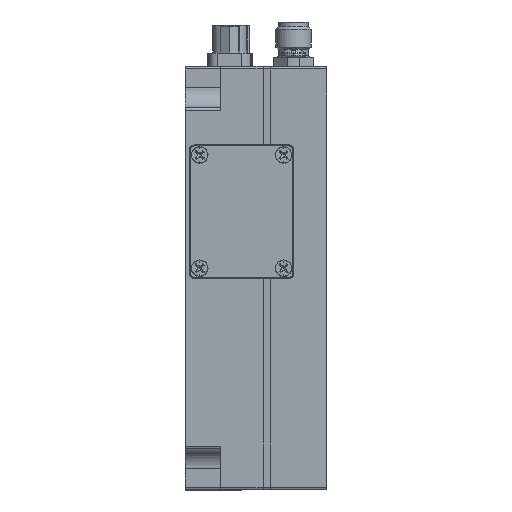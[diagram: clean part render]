
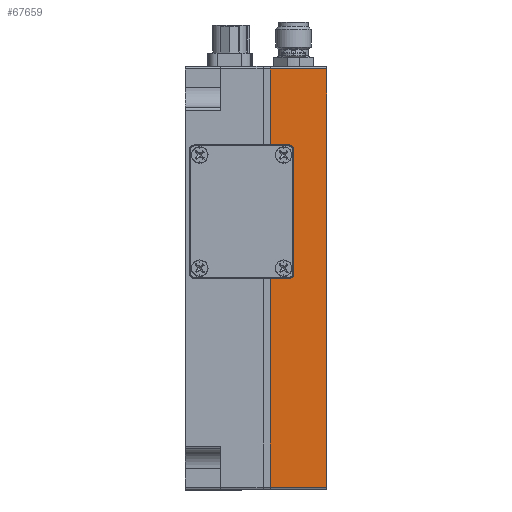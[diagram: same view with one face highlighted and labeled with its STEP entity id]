
A CAD part, left-side view. The second image highlights one B-rep face of the part: STEP entity #67659.
In plain terms, the highlighted planar face has unit normal (-1, 0, 0).
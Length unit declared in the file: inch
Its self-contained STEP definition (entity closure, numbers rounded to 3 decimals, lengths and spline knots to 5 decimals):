
#2495 = DIRECTION ( 'NONE',  ( 0., -1., 0. ) ) ;
#3800 = AXIS2_PLACEMENT_3D ( 'NONE', #119699, #73010, #110028 ) ;
#5121 = LINE ( 'NONE', #42129, #47033 ) ;
#5790 = CIRCLE ( 'NONE', #3800, 0.03125 ) ;
#8548 = DIRECTION ( 'NONE',  ( 0., 0., -1. ) ) ;
#10662 = DIRECTION ( 'NONE',  ( 0., -1., 0. ) ) ;
#12238 = LINE ( 'NONE', #66242, #63670 ) ;
#14312 = VECTOR ( 'NONE', #95363, 39.37008 ) ;
#16612 = DIRECTION ( 'NONE',  ( 0., 0., 1. ) ) ;
#20069 = CARTESIAN_POINT ( 'NONE',  ( -3., 0.23386, 0.02941 ) ) ;
#21249 = LINE ( 'NONE', #42284, #14312 ) ;
#22145 = LINE ( 'NONE', #59160, #115071 ) ;
#22357 = ORIENTED_EDGE ( 'NONE', *, *, #45934, .F. ) ;
#22565 = VERTEX_POINT ( 'NONE', #116381 ) ;
#26730 = VECTOR ( 'NONE', #62829, 39.37008 ) ;
#26981 = CARTESIAN_POINT ( 'NONE',  ( -3., 0.4, 0.94216 ) ) ;
#27009 = CARTESIAN_POINT ( 'NONE',  ( -3., 0.4, -1.48 ) ) ;
#30657 = DIRECTION ( 'NONE',  ( 0., 0., 1. ) ) ;
#33680 = EDGE_CURVE ( 'NONE', #76211, #39083, #5121, .T. ) ;
#35481 = ORIENTED_EDGE ( 'NONE', *, *, #107697, .T. ) ;
#37635 = CARTESIAN_POINT ( 'NONE',  ( -3., 0.4, -1.48 ) ) ;
#38075 = VERTEX_POINT ( 'NONE', #116427 ) ;
#38573 = VERTEX_POINT ( 'NONE', #27009 ) ;
#39083 = VERTEX_POINT ( 'NONE', #79475 ) ;
#39766 = CARTESIAN_POINT ( 'NONE',  ( -3., 0.4, -1.48 ) ) ;
#39808 = EDGE_LOOP ( 'NONE', ( #78729, #63424, #22357, #62204, #105786, #54176, #66545, #35481, #71509, #79020 ) ) ;
#42129 = CARTESIAN_POINT ( 'NONE',  ( -3., 0.4, -0.00184 ) ) ;
#42284 = CARTESIAN_POINT ( 'NONE',  ( -3., 0., -1.48 ) ) ;
#42797 = AXIS2_PLACEMENT_3D ( 'NONE', #37635, #110506, #8548 ) ;
#44164 = DIRECTION ( 'NONE',  ( 0., 0., 1. ) ) ;
#45934 = EDGE_CURVE ( 'NONE', #22565, #38075, #75641, .T. ) ;
#47033 = VECTOR ( 'NONE', #52430, 39.37008 ) ;
#49019 = VECTOR ( 'NONE', #30657, 39.37008 ) ;
#50606 = CARTESIAN_POINT ( 'NONE',  ( -3., 0.4, -0.00184 ) ) ;
#52268 = VERTEX_POINT ( 'NONE', #118614 ) ;
#52430 = DIRECTION ( 'NONE',  ( 0., -1., 0. ) ) ;
#53769 = VERTEX_POINT ( 'NONE', #117304 ) ;
#54002 = EDGE_CURVE ( 'NONE', #39083, #99855, #5790, .T. ) ;
#54176 = ORIENTED_EDGE ( 'NONE', *, *, #33680, .F. ) ;
#54314 = LINE ( 'NONE', #26981, #26730 ) ;
#59160 = CARTESIAN_POINT ( 'NONE',  ( -3., 0.4, 1.48 ) ) ;
#62204 = ORIENTED_EDGE ( 'NONE', *, *, #63269, .F. ) ;
#62730 = CARTESIAN_POINT ( 'NONE',  ( -3., 0.26511, 0.91091 ) ) ;
#62829 = DIRECTION ( 'NONE',  ( 0., 1., 0. ) ) ;
#63269 = EDGE_CURVE ( 'NONE', #99855, #22565, #103255, .T. ) ;
#63424 = ORIENTED_EDGE ( 'NONE', *, *, #75894, .F. ) ;
#63670 = VECTOR ( 'NONE', #2495, 39.37008 ) ;
#65556 = FACE_OUTER_BOUND ( 'NONE', #39808, .T. ) ;
#66242 = CARTESIAN_POINT ( 'NONE',  ( -3., 0.4, -1.48 ) ) ;
#66545 = ORIENTED_EDGE ( 'NONE', *, *, #119492, .F. ) ;
#67335 = VECTOR ( 'NONE', #44164, 39.37008 ) ;
#67659 = ADVANCED_FACE ( 'NONE', ( #65556 ), #120176, .F. ) ;
#69854 = EDGE_CURVE ( 'NONE', #111506, #53769, #22145, .T. ) ;
#70288 = EDGE_CURVE ( 'NONE', #52268, #53769, #21249, .T. ) ;
#71509 = ORIENTED_EDGE ( 'NONE', *, *, #70288, .T. ) ;
#73010 = DIRECTION ( 'NONE',  ( -1., 0., 0. ) ) ;
#74512 = VERTEX_POINT ( 'NONE', #75680 ) ;
#75460 = EDGE_CURVE ( 'NONE', #74512, #111506, #100063, .T. ) ;
#75641 = CIRCLE ( 'NONE', #87272, 0.03125 ) ;
#75680 = CARTESIAN_POINT ( 'NONE',  ( -3., 0.4, 0.94216 ) ) ;
#75894 = EDGE_CURVE ( 'NONE', #38075, #74512, #54314, .T. ) ;
#76211 = VERTEX_POINT ( 'NONE', #50606 ) ;
#78729 = ORIENTED_EDGE ( 'NONE', *, *, #75460, .F. ) ;
#79020 = ORIENTED_EDGE ( 'NONE', *, *, #69854, .F. ) ;
#79475 = CARTESIAN_POINT ( 'NONE',  ( -3., 0.26511, -0.00184 ) ) ;
#83783 = CARTESIAN_POINT ( 'NONE',  ( -3., 0.23386, 0.02941 ) ) ;
#87272 = AXIS2_PLACEMENT_3D ( 'NONE', #62730, #119764, #16612 ) ;
#93849 = LINE ( 'NONE', #39766, #49019 ) ;
#95363 = DIRECTION ( 'NONE',  ( 0., 0., 1. ) ) ;
#99618 = CARTESIAN_POINT ( 'NONE',  ( -3., 0.4, 1.48 ) ) ;
#99855 = VERTEX_POINT ( 'NONE', #83783 ) ;
#100063 = LINE ( 'NONE', #101859, #67335 ) ;
#101859 = CARTESIAN_POINT ( 'NONE',  ( -3., 0.4, -1.48 ) ) ;
#103255 = LINE ( 'NONE', #20069, #117780 ) ;
#104457 = DIRECTION ( 'NONE',  ( 0., 0., 1. ) ) ;
#105786 = ORIENTED_EDGE ( 'NONE', *, *, #54002, .F. ) ;
#107697 = EDGE_CURVE ( 'NONE', #38573, #52268, #12238, .T. ) ;
#110028 = DIRECTION ( 'NONE',  ( 0., 0., 1. ) ) ;
#110506 = DIRECTION ( 'NONE',  ( 1., 0., 0. ) ) ;
#111506 = VERTEX_POINT ( 'NONE', #99618 ) ;
#115071 = VECTOR ( 'NONE', #10662, 39.37008 ) ;
#116381 = CARTESIAN_POINT ( 'NONE',  ( -3., 0.23386, 0.91091 ) ) ;
#116427 = CARTESIAN_POINT ( 'NONE',  ( -3., 0.26511, 0.94216 ) ) ;
#117304 = CARTESIAN_POINT ( 'NONE',  ( -3., 0., 1.48 ) ) ;
#117780 = VECTOR ( 'NONE', #104457, 39.37008 ) ;
#118614 = CARTESIAN_POINT ( 'NONE',  ( -3., 0., -1.48 ) ) ;
#119492 = EDGE_CURVE ( 'NONE', #38573, #76211, #93849, .T. ) ;
#119699 = CARTESIAN_POINT ( 'NONE',  ( -3., 0.26511, 0.02941 ) ) ;
#119764 = DIRECTION ( 'NONE',  ( -1., 0., 0. ) ) ;
#120176 = PLANE ( 'NONE',  #42797 ) ;
